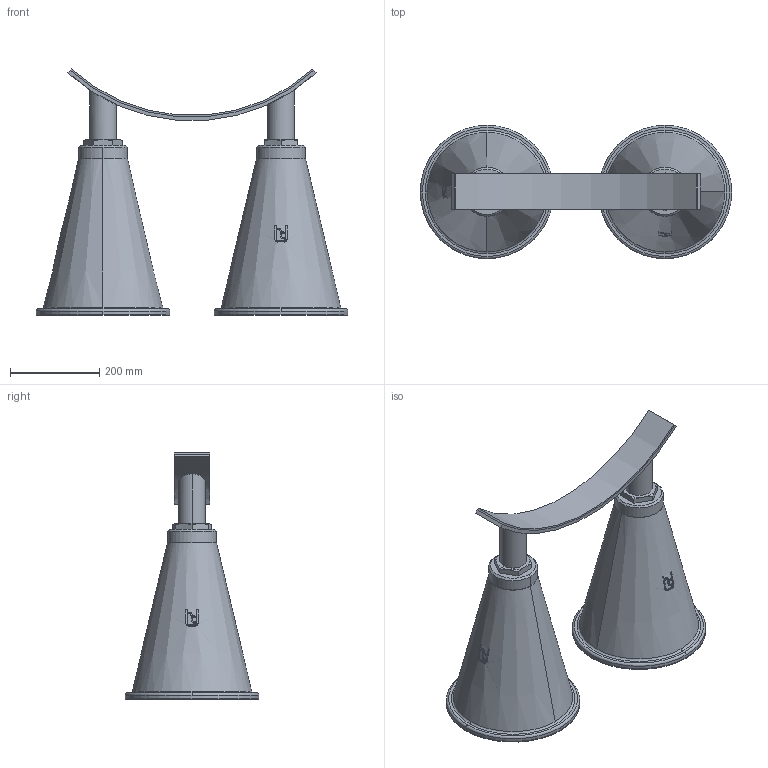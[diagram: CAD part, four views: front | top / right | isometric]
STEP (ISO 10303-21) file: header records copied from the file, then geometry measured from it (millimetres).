
FILE_DESCRIPTION(('STEP AP214'),'1');
FILE_NAME('RSRFB-DUO_DN800.stp','2018-06-26T13:50:42',(' '),(' '),'Spatial InterOp 3D',' ',' ');
FILE_SCHEMA(('automotive_design'));
Length unit declared in the file: millimetre
Products named in the file (10): 1; 2; 3; 4; 5; 6; 7; 8; 9; 10
Bounding box: 700 x 300 x 552.85 mm (x, y, z)
Volume: 25319605.2 mm3; surface area: 1319090.9 mm2
Topology: 10 solids, 12 shells, 200 faces, 478 edges, 310 vertices
Faces by surface type: plane 84, cylinder 70, cone 38, torus 8
Entity records: 8601 total; most frequent: CARTESIAN_POINT 2152, DIRECTION 990, ORIENTED_EDGE 956, EDGE_CURVE 478, AXIS2_PLACEMENT_3D 388, VERTEX_POINT 310, EDGE_LOOP 216, LINE 214
